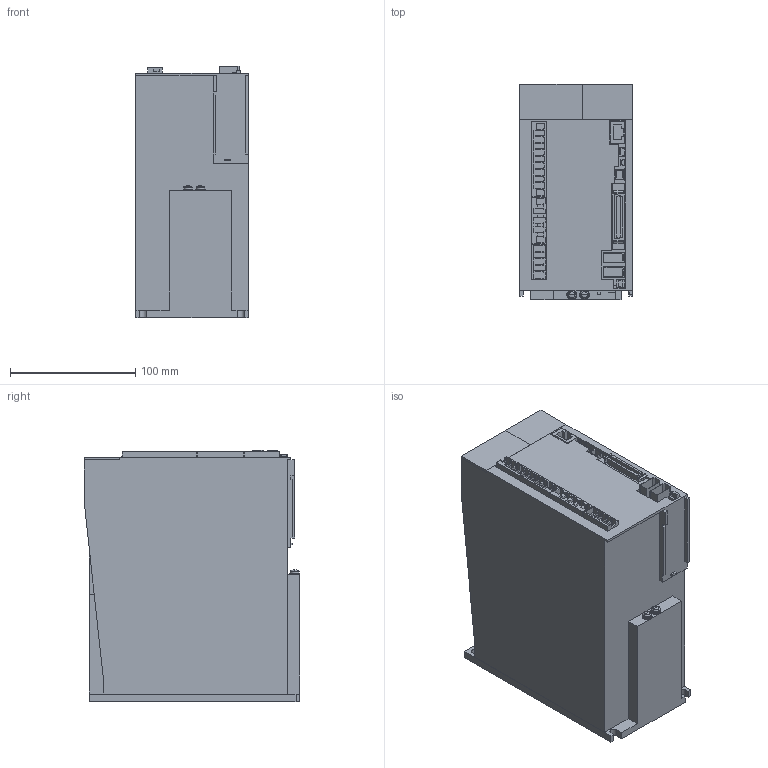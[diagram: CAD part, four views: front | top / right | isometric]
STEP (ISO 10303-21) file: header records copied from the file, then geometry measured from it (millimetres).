
FILE_DESCRIPTION((''),'2;1');
FILE_NAME('MR-J5-200A4RJA_ASM','2020-09-09T',('JE18792'),(''),'CREO PARAMETRIC BY PTC INC, 2016380','CREO PARAMETRIC BY PTC INC, 2016380','');
FILE_SCHEMA(('AUTOMOTIVE_DESIGN { 1 0 10303 214 1 1 1 1 }'));
Length unit declared in the file: millimetre
Products named in the file (18): J5-200_4-CHASSIS; J5-200A4RJ-CASE; J5-LENZ; J5-200-LENZ; J5-200-FANCOVER; J5-CN1A; J5-CN2; J5-CN3A; J5-CN4; J5-CN5; J5-CN6; J5-CN8; J5-60-350_4-CNP1; J5-60-350_4-CNP2; J5-60-350_4-CNP3; SW-PW-P-NA-M4X12-PE; FAN60; MR-J5-200A4RJA_ASM
Assembly tree (19 placements, depth 2):
  MR-J5-200A4RJA_ASM
    J5-200_4-CHASSIS
    J5-200A4RJ-CASE
    J5-LENZ
    J5-200-LENZ
    J5-200-FANCOVER
    J5-CN1A
    J5-CN2  x2
    J5-CN3A
    J5-CN4
    J5-CN5
    J5-CN6
    J5-CN8
    J5-60-350_4-CNP1
    J5-60-350_4-CNP2
    J5-60-350_4-CNP3
    SW-PW-P-NA-M4X12-PE  x2
    FAN60
Bounding box: 90 x 172 x 200.35 mm (x, y, z)
Volume: 379565.6 mm3; surface area: 306145.3 mm2
Topology: 20 solids, 20 shells, 679 faces, 1857 edges, 1232 vertices
Faces by surface type: plane 575, cylinder 92, cone 4, torus 4, sphere 4
Entity records: 27025 total; most frequent: CARTESIAN_POINT 3691, ORIENTED_EDGE 3550, DIRECTION 3323, EDGE_CURVE 1775, VECTOR 1589, LINE 1589, VERTEX_POINT 1181, AXIS2_PLACEMENT_3D 867
